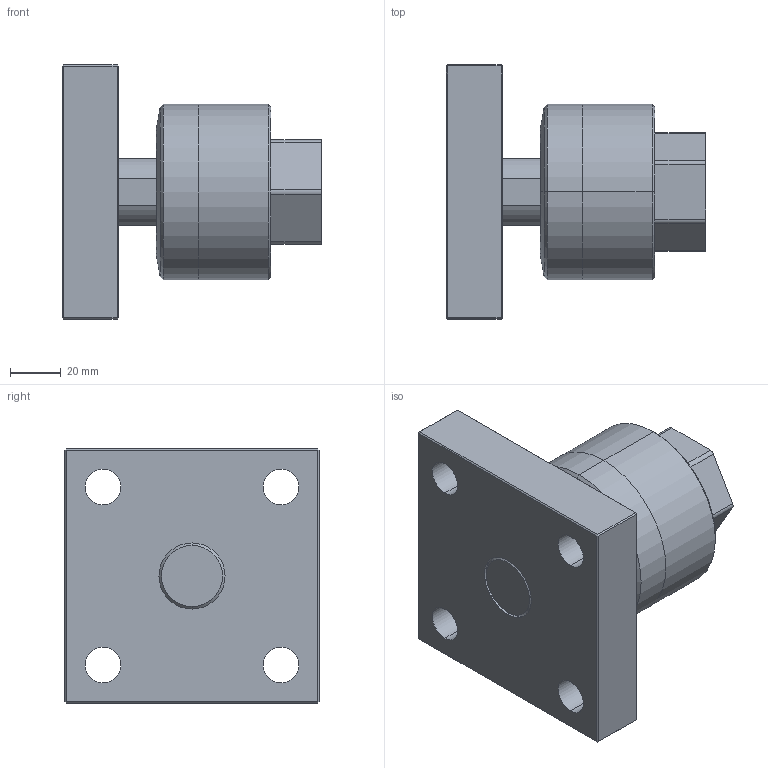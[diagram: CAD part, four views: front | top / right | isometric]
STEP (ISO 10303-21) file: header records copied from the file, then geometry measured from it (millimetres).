
FILE_DESCRIPTION (( 'STEP AP203' ), '1' );
FILE_NAME ('FCM26A-1.5-F.STEP', '2016-04-14T02:00:12', ( '' ), ( '' ), 'SwSTEP 2.0', 'SolidWorks 2014', '' );
FILE_SCHEMA (( 'CONFIG_CONTROL_DESIGN' ));
Length unit declared in the file: millimetre
Products named in the file (3): FCM26A-1.5(F); FCM26A-1.5-F; FCM26A-F
Assembly tree (2 placements, depth 2):
  FCM26A-1.5-F
    FCM26A-1.5(F)
    FCM26A-F
Bounding box: 102 x 100 x 100 mm (x, y, z)
Volume: 399790.6 mm3; surface area: 56110 mm2
Topology: 2 solids, 2 shells, 81 faces, 182 edges, 108 vertices
Faces by surface type: plane 45, cylinder 28, cone 8
Entity records: 2545 total; most frequent: DIRECTION 418, CARTESIAN_POINT 376, ORIENTED_EDGE 364, EDGE_CURVE 182, AXIS2_PLACEMENT_3D 150, LINE 118, VECTOR 118, VERTEX_POINT 108
